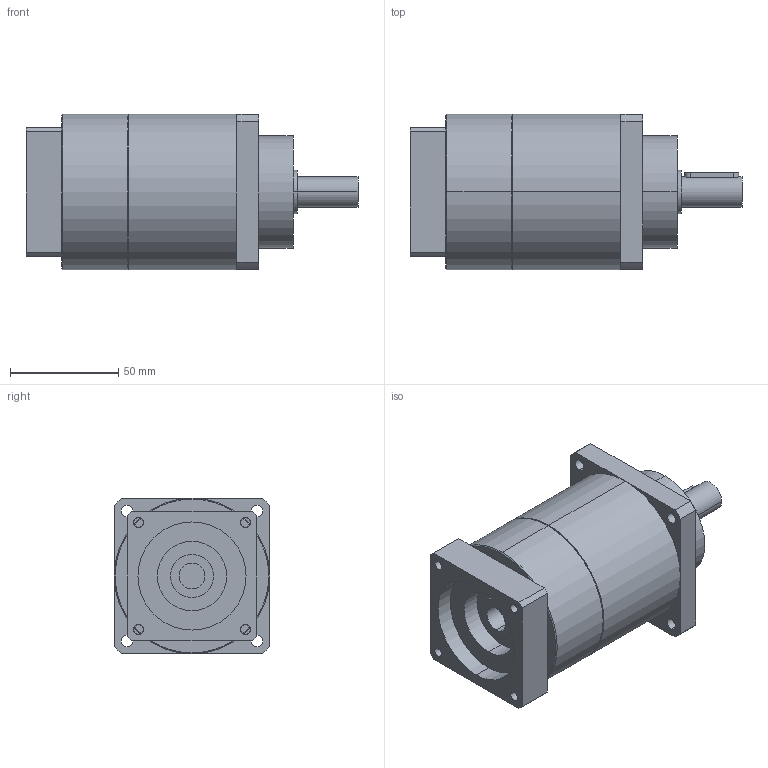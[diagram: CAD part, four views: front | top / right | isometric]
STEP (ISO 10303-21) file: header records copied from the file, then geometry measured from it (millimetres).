
FILE_DESCRIPTION(('CoCreate Modeling STEP Export'),'2;1');
FILE_NAME('GPT75_ig-9-12-16-20-25-28-35-40-50-70-100_14_B5T_12_P17.stp','2014-08-27T13:36:47',(''),(''),'CoCreate Modeling STEP processor for AP214 (Solid Model)','CoCreate Modeling 16.00C 25-Feb-2009 (C) Parametric Technology GmbH','');
FILE_SCHEMA(('AUTOMOTIVE_DESIGN { 1 0 10303 214 1 1 1 1 }'));
Length unit declared in the file: millimetre
Products named in the file (2): GPT75_ig-9-12-16-20-25-28-35-40-50-70-100_14_B5T_12_P17
Assembly tree (1 placements, depth 2):
  GPT75_ig-9-12-16-20-25-28-35-40-50-70-100_14_B5T_12_P17
    GPT75_ig-9-12-16-20-25-28-35-40-50-70-100_14_B5T_12_P17
Bounding box: 153.5 x 72 x 72 mm (x, y, z)
Volume: 452478.5 mm3; surface area: 45025.1 mm2
Topology: 1 solids, 1 shells, 88 faces, 226 edges, 145 vertices
Faces by surface type: cylinder 46, plane 38, cone 4
Entity records: 2676 total; most frequent: CARTESIAN_POINT 744, ORIENTED_EDGE 452, DIRECTION 334, EDGE_CURVE 226, VERTEX_POINT 145, AXIS2_PLACEMENT_3D 123, EDGE_LOOP 109, VECTOR 88
